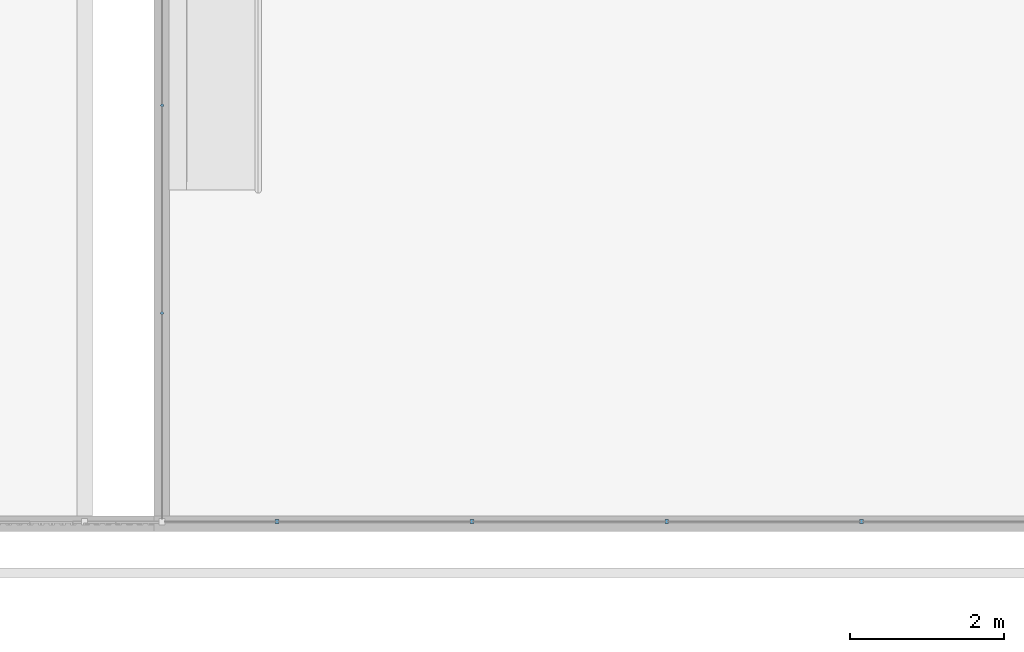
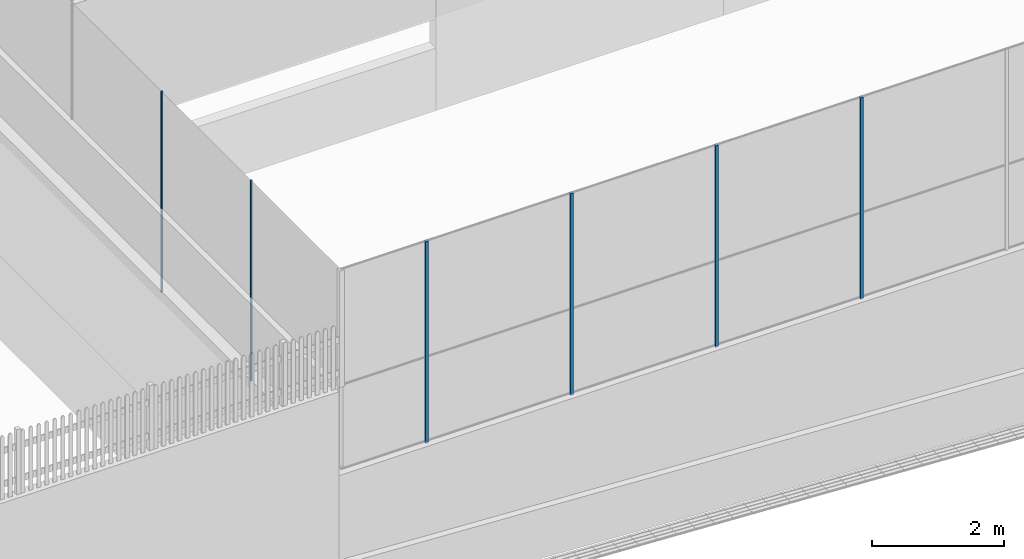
# One storey, part 2 of 237: 6 columns.
"""IFC2X3 building model written with IfcOpenShell, lengths in millimetres."""

from ifc_helpers import new_model, entity, si_unit, converted_unit, derived_unit, money_unit, direction, frame, origin_with_axes, origin_2d_with_axis, place, context, subcontext, project, spatial, rectangle, circle, extrude, material, type_object, element, save


model = new_model("IFC2X3")

# Units and contexts
model_context = context("Model", 3, precision=0.01, world=origin_with_axes(), true_north=direction((0.0, 1.0)))
body_context = subcontext(model_context, "Body", "Model", "MODEL_VIEW")
ifc_project = project(units=[si_unit("LENGTHUNIT", "METRE", prefix="MILLI"), si_unit("AREAUNIT", "SQUARE_METRE"), si_unit("VOLUMEUNIT", "CUBIC_METRE"), converted_unit("PLANEANGLEUNIT", "DEGREE", entity("IfcPlaneAngleMeasure", 0.0174532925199), si_unit("PLANEANGLEUNIT", "RADIAN"), dimensions=[0, 0, 0, 0, 0, 0, 0]), money_unit("USD"), converted_unit("TIMEUNIT", "Year", entity("IfcTimeMeasure", 31556926.0), si_unit("TIMEUNIT", "SECOND"), dimensions=[0, 0, 1, 0, 0, 0, 0]), si_unit("MASSUNIT", "GRAM", prefix="KILO"), si_unit("THERMODYNAMICTEMPERATUREUNIT", "DEGREE_CELSIUS"), si_unit("LUMINOUSINTENSITYUNIT", "LUMEN"), si_unit("ENERGYUNIT", "JOULE", prefix="MEGA"), derived_unit("THERMALCONDUCTANCEUNIT", [(si_unit("POWERUNIT", "WATT"), 1), (si_unit("LENGTHUNIT", "METRE"), -1), (si_unit("THERMODYNAMICTEMPERATUREUNIT", "KELVIN"), -1)]), derived_unit("SPECIFICHEATCAPACITYUNIT", [(si_unit("ENERGYUNIT", "JOULE"), 1), (si_unit("MASSUNIT", "GRAM", prefix="KILO"), -1), (si_unit("THERMODYNAMICTEMPERATUREUNIT", "KELVIN"), -1)]), derived_unit("MASSDENSITYUNIT", [(si_unit("MASSUNIT", "GRAM", prefix="KILO"), 1), (si_unit("VOLUMEUNIT", "CUBIC_METRE"), -1)])], contexts=[model_context])

# Site, building, storey
site_placement = place(None, origin_with_axes())
site = spatial("IfcSite", under=ifc_project, at=site_placement, Name="Local", CompositionType="ELEMENT")
building_placement = place(site_placement, origin_with_axes())
building = spatial("IfcBuilding", under=site, at=building_placement, Name="Construção", CompositionType="ELEMENT")
storey_placement = place(building_placement, origin_with_axes())
storey = spatial("IfcBuildingStorey", under=building, at=storey_placement, Name="Pavimento Térreo", CompositionType="ELEMENT", Elevation=0.0)

# Columns
ifc_material = material(Name="Alumínio")
column_type_1 = type_object("IfcColumnType", Name="Alumínio 50 x 50", PredefinedType="NOTDEFINED")
for number, where, z_axis, x_axis, name in (
    (1, (66017.8594887, 12746.9704756, -2742.28516207), (0.0, 0.0, 1.0), (1.0, 0.0, 0.0), "Pil-016"),
    (2, (63490.1112527, 12746.9704756, -2742.28516207), (0.0, 0.0, 1.0), (1.0, 0.0, 0.0), "Pil-016"),
    (3, (60962.3630166, 12746.9704756, -2742.28516207), (0.0, 0.0, 1.0), (1.0, 0.0, 0.0), "Pil-016"),
    (4, (68545.6077247, 12746.9704756, -2742.28516207), (0.0, 0.0, 1.0), (1.0, 0.0, 0.0), "Pil-016"),
):
    element("IfcColumn", number, at=place(storey_placement, frame(where, z_axis=z_axis, x_axis=x_axis)), inside=storey, type_object=column_type_1, material=ifc_material, Name=name, context=body_context, shape_type="SweptSolid", body=[
        extrude(rectangle(XDim=50.0, YDim=50.0, at=origin_2d_with_axis()), origin_with_axes(), (0.0, 0.0, 1.0), 3718.70739897),
    ])
column_type_2 = type_object("IfcColumnType", Name="Alumínio D39", PredefinedType="NOTDEFINED")
for number, where, z_axis, x_axis, name in (
    (5, (59468.8102788, 15452.7217824, -2721.89460916), (0.0, 0.0, 1.0), (1.0, 0.0, 0.0), "Pil-016"),
    (6, (59470.0168779, 18148.8385783, -2721.89460916), (0.0, 0.0, 1.0), (1.0, 0.0, 0.0), "Pil-016"),
):
    element("IfcColumn", number, at=place(storey_placement, frame(where, z_axis=z_axis, x_axis=x_axis)), inside=storey, type_object=column_type_2, material=ifc_material, Name=name, context=body_context, shape_type="SweptSolid", body=[
        extrude(circle(Radius=19.5017039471, at=origin_2d_with_axis()), origin_with_axes(), (0.0, 0.0, 1.0), 3698.31684606),
    ])

save(model, "model.ifc")
